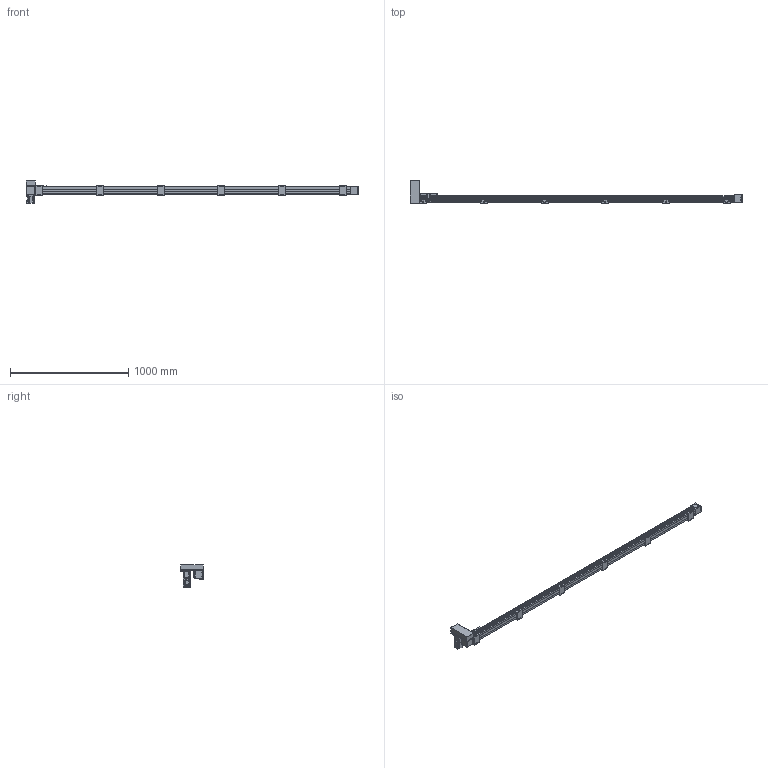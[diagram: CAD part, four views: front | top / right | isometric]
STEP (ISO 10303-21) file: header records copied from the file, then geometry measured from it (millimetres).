
FILE_DESCRIPTION(/* description */ ('STEP AP214'),/* implementation_level */ '2;1');
FILE_NAME(/* name */ 'SK60-P13-S2500-RU-T40-C1-N(0)',/* time_stamp */ '2023-04-06T05:05:38+02:00',/* author */ ('License CC BY-ND 4.0'),/* organization */ ('CADENAS'),/* preprocessor_version */ 'ST-DEVELOPER v19.3',/* originating_system */ 'PARTsolutions',/* authorisation */ ' ');
FILE_SCHEMA (('AUTOMOTIVE_DESIGN {1 0 10303 214 3 1 1}'));
Length unit declared in the file: millimetre
Products named in the file (10): SK60-P13-S2500-RU-T40-C1-N(0); PSC140-sensor; SK60-S450_seat; SK60-S450-BL-C1_slider; SK60_body3; SK60_body6; SK60-BL_body2; T40-p1; SK60-RU_fb; SK60-S2500-RU-C1_body
Assembly tree (20 placements, depth 2):
  SK60-P13-S2500-RU-T40-C1-N(0)
    PSC140-sensor  x3
    SK60-S450_seat  x6
    SK60-S450-BL-C1_slider
    SK60_body3  x3
    SK60_body6  x2
    SK60-BL_body2  x2
    T40-p1
    SK60-RU_fb
    SK60-S2500-RU-C1_body
Bounding box: 2805.5 x 201 x 189.7 mm (x, y, z)
Volume: 10766496.6 mm3; surface area: 1278422.2 mm2
Topology: 20 solids, 20 shells, 986 faces, 2440 edges, 1605 vertices
Faces by surface type: plane 620, cylinder 326, cone 38, torus 2
Full cylindrical faces by diameter (mm): 2.8 x3, 3.3 x4, 4 x2, 4.5 x30, 4.6 x3, 4.917 x32, 5 x6, 5.478 x4, 5.5 x35, 6.5 x12, 7 x2, 8 x4, 8.5 x4, 9.988 x4, 10 x24, 14 x1, 47 x3, 50 x2
Entity records: 18687 total; most frequent: DIRECTION 3192, CARTESIAN_POINT 3154, ORIENTED_EDGE 2940, EDGE_CURVE 1470, AXIS2_PLACEMENT_3D 1072, LINE 1048, VECTOR 1048, VERTEX_POINT 1034
